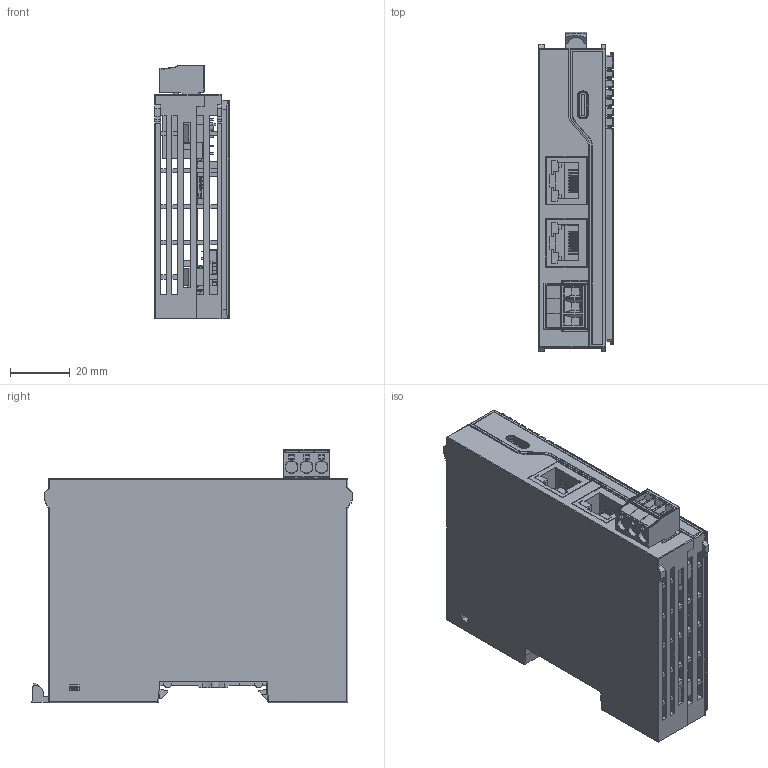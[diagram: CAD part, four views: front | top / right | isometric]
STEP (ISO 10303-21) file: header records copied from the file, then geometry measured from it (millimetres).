
FILE_DESCRIPTION((''),'2;1');
FILE_NAME('ASM0001_ASM','2023-08-18T14:43:16',('Lenovo'),(''),'CREO PARAMETRIC BY PTC INC, 2020033','CREO PARAMETRIC BY PTC INC, 2020033','');
FILE_SCHEMA(('CONFIG_CONTROL_DESIGN'));
Products named in the file (22): LEFT; RIGHT; JINGPIAN; PCB; WJ2EDGRRC-508; RT7-ST-0001-100M_1; TYPE-C_13; 7PIN-LIANJIEQI; 7PIN-LIANJIEQI-GUDINGJIAO; 7PIN-LIANJIEQI-TIANPIAN01; 7PIN-LIANJIEQI-TIANPIAN06; 7PIN-LIANJIEQI-TIANPIAN02; 7PIN-LIANJIEQI-TIANPIAN03; 7PIN-LIANJIEQI-TIANPIAN04; 7PIN-LIANJIEQI-TIANPIAN05; 7PIN-LIANJIEQI_ASM; WF12508-03200; LED; PCB_ASM; R3-IO-KAKOU; WJ2EDGK-508; ASM0001_ASM
Assembly tree (36 placements, depth 4):
  ASM0001_ASM
    LEFT
    RIGHT
    JINGPIAN
    PCB_ASM
      PCB
      WJ2EDGRRC-508
      RT7-ST-0001-100M_1  x2
      TYPE-C_13
      7PIN-LIANJIEQI_ASM
        7PIN-LIANJIEQI
        7PIN-LIANJIEQI-GUDINGJIAO  x4
        7PIN-LIANJIEQI-TIANPIAN01  x3
        7PIN-LIANJIEQI-TIANPIAN06
        7PIN-LIANJIEQI-TIANPIAN02  x3
        7PIN-LIANJIEQI-TIANPIAN03  x3
        7PIN-LIANJIEQI-TIANPIAN04  x3
        7PIN-LIANJIEQI-TIANPIAN05
      WF12508-03200
      LED  x4
    R3-IO-KAKOU
    WJ2EDGK-508
Bounding box: 25 x 107 x 84.8 mm (x, y, z)
Volume: 60109 mm3; surface area: 79391 mm2
Topology: 35 solids, 35 shells, 6844 faces, 19775 edges, 12893 vertices
Faces by surface type: plane 4359, cylinder 1614, bspline 598, torus 159, cone 86, sphere 28
Entity records: 188780 total; most frequent: CARTESIAN_POINT 51504, ORIENTED_EDGE 30122, DIRECTION 26558, EDGE_CURVE 15061, VECTOR 11594, LINE 11594, VERTEX_POINT 9809, AXIS2_PLACEMENT_3D 7482
